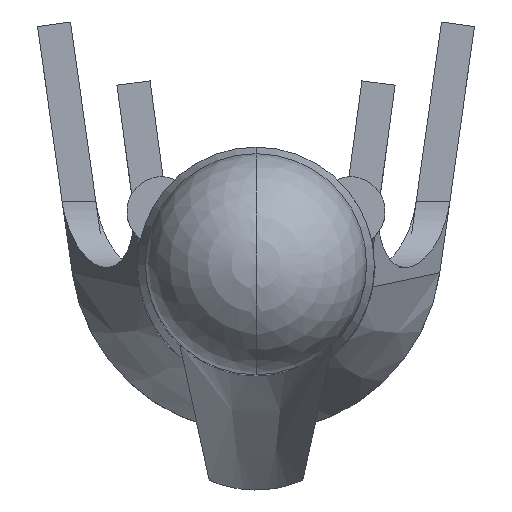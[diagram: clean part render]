
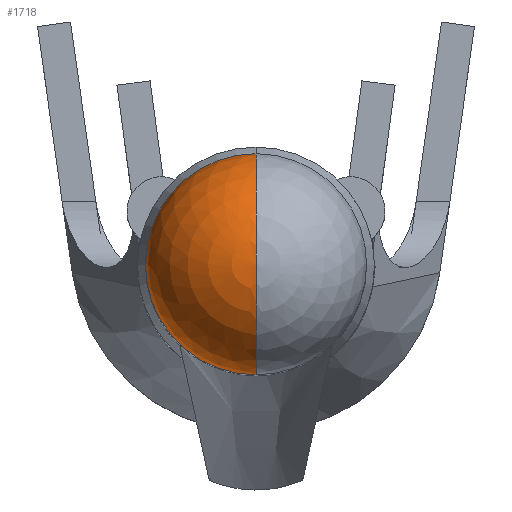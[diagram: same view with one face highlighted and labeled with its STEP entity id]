
A CAD part, top view. The second image highlights one B-rep face of the part: STEP entity #1718.
In plain terms, the highlighted spherical face has radius 1.06 mm.
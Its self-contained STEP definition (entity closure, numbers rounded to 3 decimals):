
#225=CARTESIAN_POINT('',(0.,0.,-1.06));
#226=DIRECTION('',(0.,0.,-1.));
#227=DIRECTION('',(0.,-1.,0.));
#228=AXIS2_PLACEMENT_3D('',#225,#226,#227);
#244=CARTESIAN_POINT('',(0.,0.,-1.06));
#245=DIRECTION('',(1.,0.,0.));
#246=DIRECTION('',(0.,0.,1.));
#247=AXIS2_PLACEMENT_3D('',#244,#245,#246);
#249=CARTESIAN_POINT('',(0.,0.,-1.06));
#250=DIRECTION('',(-1.,0.,0.));
#251=DIRECTION('',(0.,0.,1.));
#252=AXIS2_PLACEMENT_3D('',#249,#250,#251);
#1168=CARTESIAN_POINT('',(0.,0.,0.));
#1169=CARTESIAN_POINT('',(0.,-1.06,-1.06));
#1170=VERTEX_POINT('',#1168);
#1171=VERTEX_POINT('',#1169);
#1172=CARTESIAN_POINT('',(0.,1.06,-1.06));
#1174=VERTEX_POINT('',#1172);
#1706=CARTESIAN_POINT('',(0.,0.,-1.06));
#1707=DIRECTION('',(0.,0.,1.));
#1708=DIRECTION('',(0.,1.,0.));
#1709=AXIS2_PLACEMENT_3D('',#1706,#1707,#1708);
#1710=SPHERICAL_SURFACE('',#1709,1.06);
#1712=ORIENTED_EDGE('',*,*,#1711,.T.);
#1713=ORIENTED_EDGE('',*,*,#1698,.T.);
#1715=ORIENTED_EDGE('',*,*,#1714,.F.);
#1716=EDGE_LOOP('',(#1712,#1713,#1715));
#1717=FACE_OUTER_BOUND('',#1716,.F.);
#1718=ADVANCED_FACE('',(#1717),#1710,.T.);
#229=CIRCLE('',#228,1.06);
#248=CIRCLE('',#247,1.06);
#253=CIRCLE('',#252,1.06);
#1698=EDGE_CURVE('',#1171,#1174,#229,.T.);
#1711=EDGE_CURVE('',#1170,#1171,#248,.T.);
#1714=EDGE_CURVE('',#1170,#1174,#253,.T.);
